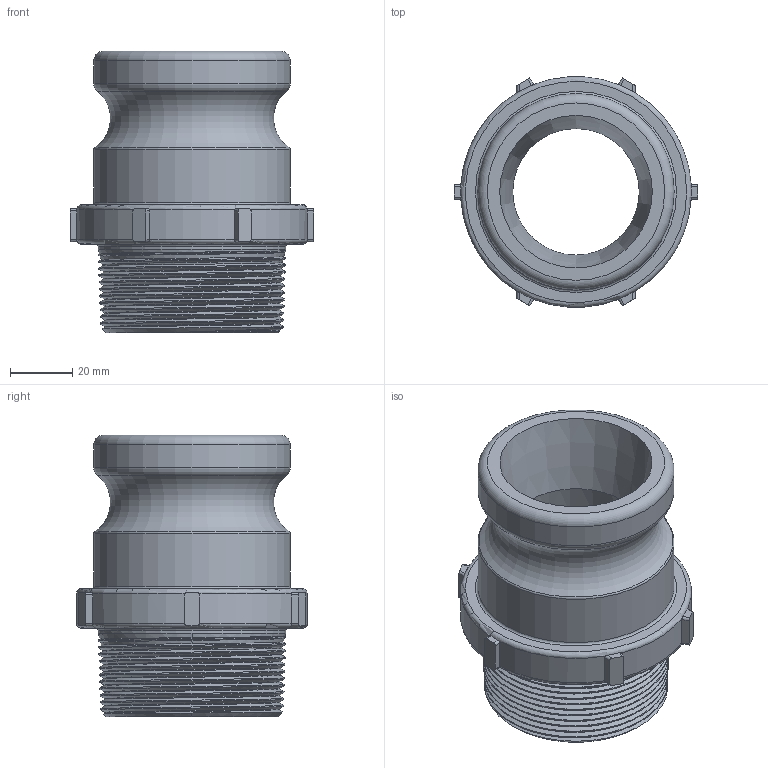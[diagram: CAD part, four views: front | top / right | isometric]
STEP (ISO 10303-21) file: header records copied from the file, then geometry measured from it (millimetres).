
FILE_DESCRIPTION(/* description */ ('Alibre Inc.'),/* implementation_level */ '2;1');
FILE_NAME(/* name */ 'export0',/* time_stamp */ '2016-01-17T17:07:10-05:00',/* author */ (''),/* organization */ (''),/* preprocessor_version */ 'ST-DEVELOPER v14',/* originating_system */ 'Alibre',/* authorisation */ '');
FILE_SCHEMA (('CONFIG_CONTROL_DESIGN'));
Length unit declared in the file: centimetre
Products named in the file (1): ID_1
Bounding box: 78.23 x 74.08 x 90.42 mm (x, y, z)
Volume: 118059.5 mm3; surface area: 38518.2 mm2
Topology: 1 solids, 1 shells, 115 faces, 310 edges, 199 vertices
Faces by surface type: cone 36, plane 34, cylinder 34, torus 8, bspline 3
Full cylindrical faces by diameter (mm): 49.022 x1, 60.325 x1, 63.094 x2
Entity records: 46756 total; most frequent: CARTESIAN_POINT 44088, ORIENTED_EDGE 588, DIRECTION 424, EDGE_CURVE 294, VERTEX_POINT 197, AXIS2_PLACEMENT_3D 174, EDGE_LOOP 133, FACE_BOUND 133
